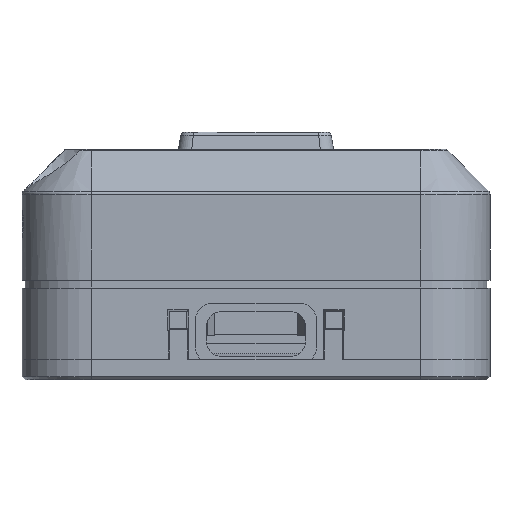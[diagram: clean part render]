
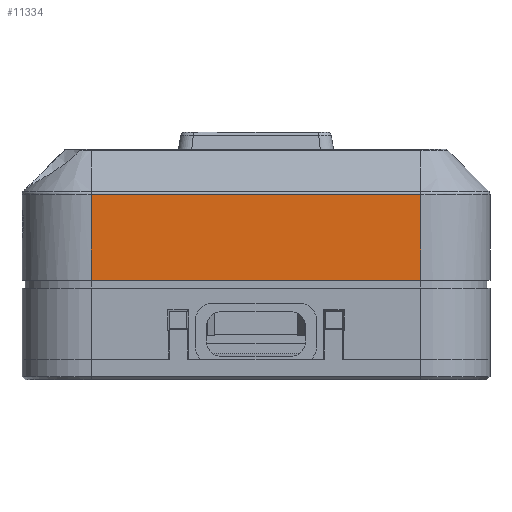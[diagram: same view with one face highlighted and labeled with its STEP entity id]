
A CAD part, front view. The second image highlights one B-rep face of the part: STEP entity #11334.
In plain terms, the highlighted planar face has unit normal (0, -1, 0).
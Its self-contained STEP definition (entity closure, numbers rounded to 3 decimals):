
#2965 = CYLINDRICAL_SURFACE('',#2966,0.5);
#2966 = AXIS2_PLACEMENT_3D('',#2967,#2968,#2969);
#2967 = CARTESIAN_POINT('',(19.,-23.5,21.393));
#2968 = DIRECTION('',(-1.,-0.,-0.));
#2969 = DIRECTION('',(0.,-1.,0.));
#3437 = VERTEX_POINT('',#3438);
#3438 = CARTESIAN_POINT('',(-19.,-24.,21.393));
#3456 = CYLINDRICAL_SURFACE('',#3457,8.);
#3457 = AXIS2_PLACEMENT_3D('',#3458,#3459,#3460);
#3458 = CARTESIAN_POINT('',(-19.,-16.,2.4));
#3459 = DIRECTION('',(0.,0.,1.));
#3460 = DIRECTION('',(-1.,-0.,0.));
#4228 = VERTEX_POINT('',#4229);
#4229 = CARTESIAN_POINT('',(19.,-24.,21.393));
#4270 = CYLINDRICAL_SURFACE('',#4271,8.);
#4271 = AXIS2_PLACEMENT_3D('',#4272,#4273,#4274);
#4272 = CARTESIAN_POINT('',(19.,-16.,2.4));
#4273 = DIRECTION('',(0.,0.,1.));
#4274 = DIRECTION('',(1.,0.,-0.));
#4293 = EDGE_CURVE('',#4228,#3437,#4294,.T.);
#4294 = SURFACE_CURVE('',#4295,(#4299,#4306),.PCURVE_S1.);
#4295 = LINE('',#4296,#4297);
#4296 = CARTESIAN_POINT('',(19.,-24.,21.393));
#4297 = VECTOR('',#4298,1.);
#4298 = DIRECTION('',(-1.,-0.,-0.));
#4299 = PCURVE('',#2965,#4300);
#4300 = DEFINITIONAL_REPRESENTATION('',(#4301),#4305);
#4301 = LINE('',#4302,#4303);
#4302 = CARTESIAN_POINT('',(0.,0.));
#4303 = VECTOR('',#4304,1.);
#4304 = DIRECTION('',(0.,1.));
#4305 = ( GEOMETRIC_REPRESENTATION_CONTEXT(2) 
PARAMETRIC_REPRESENTATION_CONTEXT() REPRESENTATION_CONTEXT('2D SPACE',''
  ) );
#4306 = PCURVE('',#4307,#4312);
#4307 = PLANE('',#4308);
#4308 = AXIS2_PLACEMENT_3D('',#4309,#4310,#4311);
#4309 = CARTESIAN_POINT('',(-27.,-24.,2.4));
#4310 = DIRECTION('',(0.,1.,0.));
#4311 = DIRECTION('',(0.,0.,1.));
#4312 = DEFINITIONAL_REPRESENTATION('',(#4313),#4317);
#4313 = LINE('',#4314,#4315);
#4314 = CARTESIAN_POINT('',(18.993,46.));
#4315 = VECTOR('',#4316,1.);
#4316 = DIRECTION('',(0.,-1.));
#4317 = ( GEOMETRIC_REPRESENTATION_CONTEXT(2) 
PARAMETRIC_REPRESENTATION_CONTEXT() REPRESENTATION_CONTEXT('2D SPACE',''
  ) );
#4763 = VERTEX_POINT('',#4764);
#4764 = CARTESIAN_POINT('',(-19.,-24.,11.5));
#4779 = PLANE('',#4780);
#4780 = AXIS2_PLACEMENT_3D('',#4781,#4782,#4783);
#4781 = CARTESIAN_POINT('',(-27.5,-24.5,11.5));
#4782 = DIRECTION('',(0.,0.,1.));
#4783 = DIRECTION('',(1.,0.,0.));
#4791 = EDGE_CURVE('',#4763,#3437,#4792,.T.);
#4792 = SURFACE_CURVE('',#4793,(#4797,#4804),.PCURVE_S1.);
#4793 = LINE('',#4794,#4795);
#4794 = CARTESIAN_POINT('',(-19.,-24.,2.4));
#4795 = VECTOR('',#4796,1.);
#4796 = DIRECTION('',(0.,0.,1.));
#4797 = PCURVE('',#3456,#4798);
#4798 = DEFINITIONAL_REPRESENTATION('',(#4799),#4803);
#4799 = LINE('',#4800,#4801);
#4800 = CARTESIAN_POINT('',(1.571,0.));
#4801 = VECTOR('',#4802,1.);
#4802 = DIRECTION('',(0.,1.));
#4803 = ( GEOMETRIC_REPRESENTATION_CONTEXT(2) 
PARAMETRIC_REPRESENTATION_CONTEXT() REPRESENTATION_CONTEXT('2D SPACE',''
  ) );
#4804 = PCURVE('',#4307,#4805);
#4805 = DEFINITIONAL_REPRESENTATION('',(#4806),#4810);
#4806 = LINE('',#4807,#4808);
#4807 = CARTESIAN_POINT('',(0.,8.));
#4808 = VECTOR('',#4809,1.);
#4809 = DIRECTION('',(1.,0.));
#4810 = ( GEOMETRIC_REPRESENTATION_CONTEXT(2) 
PARAMETRIC_REPRESENTATION_CONTEXT() REPRESENTATION_CONTEXT('2D SPACE',''
  ) );
#11290 = VERTEX_POINT('',#11291);
#11291 = CARTESIAN_POINT('',(19.,-24.,11.5));
#11313 = EDGE_CURVE('',#11290,#4228,#11314,.T.);
#11314 = SURFACE_CURVE('',#11315,(#11319,#11326),.PCURVE_S1.);
#11315 = LINE('',#11316,#11317);
#11316 = CARTESIAN_POINT('',(19.,-24.,2.4));
#11317 = VECTOR('',#11318,1.);
#11318 = DIRECTION('',(0.,0.,1.));
#11319 = PCURVE('',#4270,#11320);
#11320 = DEFINITIONAL_REPRESENTATION('',(#11321),#11325);
#11321 = LINE('',#11322,#11323);
#11322 = CARTESIAN_POINT('',(-1.571,0.));
#11323 = VECTOR('',#11324,1.);
#11324 = DIRECTION('',(-0.,1.));
#11325 = ( GEOMETRIC_REPRESENTATION_CONTEXT(2) 
PARAMETRIC_REPRESENTATION_CONTEXT() REPRESENTATION_CONTEXT('2D SPACE',''
  ) );
#11326 = PCURVE('',#4307,#11327);
#11327 = DEFINITIONAL_REPRESENTATION('',(#11328),#11332);
#11328 = LINE('',#11329,#11330);
#11329 = CARTESIAN_POINT('',(0.,46.));
#11330 = VECTOR('',#11331,1.);
#11331 = DIRECTION('',(1.,0.));
#11332 = ( GEOMETRIC_REPRESENTATION_CONTEXT(2) 
PARAMETRIC_REPRESENTATION_CONTEXT() REPRESENTATION_CONTEXT('2D SPACE',''
  ) );
#11334 = ADVANCED_FACE('',(#11335),#4307,.F.);
#11335 = FACE_BOUND('',#11336,.F.);
#11336 = EDGE_LOOP('',(#11337,#11356,#11357,#11358));
#11337 = ORIENTED_EDGE('',*,*,#11338,.F.);
#11338 = EDGE_CURVE('',#4763,#11290,#11339,.T.);
#11339 = SURFACE_CURVE('',#11340,(#11344,#11350),.PCURVE_S1.);
#11340 = LINE('',#11341,#11342);
#11341 = CARTESIAN_POINT('',(-27.25,-24.,11.5));
#11342 = VECTOR('',#11343,1.);
#11343 = DIRECTION('',(1.,0.,0.));
#11344 = PCURVE('',#4307,#11345);
#11345 = DEFINITIONAL_REPRESENTATION('',(#11346),#11349);
#11346 = B_SPLINE_CURVE_WITH_KNOTS('',1,(#11347,#11348),.UNSPECIFIED.,
  .F.,.F.,(2,2),(8.25,46.25),.PIECEWISE_BEZIER_KNOTS.);
#11347 = CARTESIAN_POINT('',(9.1,8.));
#11348 = CARTESIAN_POINT('',(9.1,46.));
#11349 = ( GEOMETRIC_REPRESENTATION_CONTEXT(2) 
PARAMETRIC_REPRESENTATION_CONTEXT() REPRESENTATION_CONTEXT('2D SPACE',''
  ) );
#11350 = PCURVE('',#4779,#11351);
#11351 = DEFINITIONAL_REPRESENTATION('',(#11352),#11355);
#11352 = B_SPLINE_CURVE_WITH_KNOTS('',1,(#11353,#11354),.UNSPECIFIED.,
  .F.,.F.,(2,2),(8.25,46.25),.PIECEWISE_BEZIER_KNOTS.);
#11353 = CARTESIAN_POINT('',(8.5,0.5));
#11354 = CARTESIAN_POINT('',(46.5,0.5));
#11355 = ( GEOMETRIC_REPRESENTATION_CONTEXT(2) 
PARAMETRIC_REPRESENTATION_CONTEXT() REPRESENTATION_CONTEXT('2D SPACE',''
  ) );
#11356 = ORIENTED_EDGE('',*,*,#4791,.T.);
#11357 = ORIENTED_EDGE('',*,*,#4293,.F.);
#11358 = ORIENTED_EDGE('',*,*,#11313,.F.);
